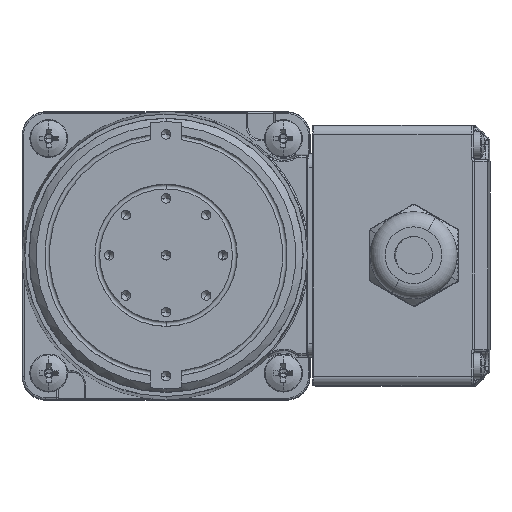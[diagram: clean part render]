
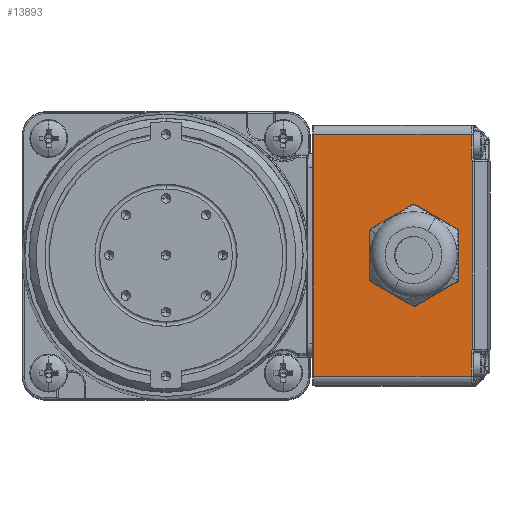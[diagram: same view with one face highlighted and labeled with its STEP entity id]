
A CAD part, top view. The second image highlights one B-rep face of the part: STEP entity #13893.
In plain terms, the highlighted planar face has unit normal (-0.009, 0, 1) as drawn and (0, 1, -0.008) by its records, which use the part's own axes.
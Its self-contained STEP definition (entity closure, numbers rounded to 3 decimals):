
#75 = AXIS2_PLACEMENT_3D ( 'NONE', #18750, #29320, #21343 ) ;
#371 =( BOUNDED_CURVE ( )  B_SPLINE_CURVE ( 3, ( #13868, #32252, #8662, #19248, #8491, #19072, #24472, #677, #11260, #29826, #15788, #30510, #14033, #32760, #32589, #3967, #24982, #9340, #14209, #33265, #20087, #8998, #16814, #24810 ),
 .UNSPECIFIED., .F., .F. ) 
 B_SPLINE_CURVE_WITH_KNOTS ( ( 4, 1, 1, 1, 1, 1, 1, 1, 1, 1, 1, 1, 1, 1, 1, 1, 1, 1, 1, 1, 1, 4 ),
 ( 0., 0., 0.03, 0.059, 0.087, 0.114, 0.143, 0.172, 0.204, 0.238, 0.275, 0.316, 0.36, 0.408, 0.462, 0.521, 0.588, 0.661, 0.743, 0.833, 0.932, 1. ),
 .UNSPECIFIED. ) 
 CURVE ( )  GEOMETRIC_REPRESENTATION_ITEM ( )  RATIONAL_B_SPLINE_CURVE ( ( 1.172, 1.172, 1.172, 1.172, 1.172, 1.172, 1.172, 1.172, 1.172, 1.172, 1.172, 1.172, 1.172, 1.172, 1.172, 1.172, 1.172, 1.172, 1.172, 1.172, 1.172, 1.172, 1.172, 1.172 ) ) 
 REPRESENTATION_ITEM ( '' )  );
#677 = CARTESIAN_POINT ( 'NONE',  ( -19.875, 51.113, 74.305 ) ) ;
#1904 = CIRCLE ( 'NONE', #19643, 8.25 ) ;
#2416 = DIRECTION ( 'NONE',  ( 0., -0.008, -1. ) ) ;
#2624 = EDGE_CURVE ( 'NONE', #25173, #4384, #17524, .T. ) ;
#2724 = ORIENTED_EDGE ( 'NONE', *, *, #7305, .F. ) ;
#2892 = CARTESIAN_POINT ( 'NONE',  ( 25.5, 51.11, 74.029 ) ) ;
#3300 = VECTOR ( 'NONE', #7177, 1000. ) ;
#3472 = EDGE_CURVE ( 'NONE', #13310, #9736, #371, .T. ) ;
#3967 = CARTESIAN_POINT ( 'NONE',  ( -20.141, 51.111, 74.16 ) ) ;
#4088 = CARTESIAN_POINT ( 'NONE',  ( -25.5, 50.837, 40.73 ) ) ;
#4124 = ORIENTED_EDGE ( 'NONE', *, *, #10626, .F. ) ;
#4384 = VERTEX_POINT ( 'NONE', #6826 ) ;
#4528 = VECTOR ( 'NONE', #7383, 1000. ) ;
#4774 = LINE ( 'NONE', #9632, #31229 ) ;
#4958 = DIRECTION ( 'NONE',  ( 0., 1., -0.008 ) ) ;
#6826 = CARTESIAN_POINT ( 'NONE',  ( 25.5, 50.837, 40.73 ) ) ;
#6883 = CARTESIAN_POINT ( 'NONE',  ( 20.319, 51.109, 74.087 ) ) ;
#7177 = DIRECTION ( 'NONE',  ( -1., 0., 0. ) ) ;
#7305 = EDGE_CURVE ( 'NONE', #25500, #8161, #12254, .T. ) ;
#7383 = DIRECTION ( 'NONE',  ( -1., 0., 0. ) ) ;
#7445 = ORIENTED_EDGE ( 'NONE', *, *, #17460, .F. ) ;
#7725 = EDGE_CURVE ( 'NONE', #25173, #12054, #20221, .T. ) ;
#7877 = LINE ( 'NONE', #26257, #3300 ) ;
#8161 = VERTEX_POINT ( 'NONE', #22946 ) ;
#8491 = CARTESIAN_POINT ( 'NONE',  ( -19.838, 51.113, 74.321 ) ) ;
#8656 = ORIENTED_EDGE ( 'NONE', *, *, #3472, .F. ) ;
#8662 = CARTESIAN_POINT ( 'NONE',  ( -19.835, 51.113, 74.321 ) ) ;
#8998 = CARTESIAN_POINT ( 'NONE',  ( -20.614, 51.11, 74.031 ) ) ;
#9340 = CARTESIAN_POINT ( 'NONE',  ( -20.264, 51.111, 74.108 ) ) ;
#9632 = CARTESIAN_POINT ( 'NONE',  ( -25.5, 51.11, 74.029 ) ) ;
#9649 = CARTESIAN_POINT ( 'NONE',  ( 20.107, 51.11, 74.175 ) ) ;
#9736 = VERTEX_POINT ( 'NONE', #11996 ) ;
#9931 = VECTOR ( 'NONE', #2416, 1000. ) ;
#10005 = CARTESIAN_POINT ( 'NONE',  ( 20.177, 51.11, 74.142 ) ) ;
#10626 = EDGE_CURVE ( 'NONE', #12054, #19138, #33923, .T. ) ;
#10688 = VECTOR ( 'NONE', #24062, 1000. ) ;
#11260 = CARTESIAN_POINT ( 'NONE',  ( -19.895, 51.112, 74.294 ) ) ;
#11670 = CARTESIAN_POINT ( 'NONE',  ( -25.5, 51.11, 74.029 ) ) ;
#11996 = CARTESIAN_POINT ( 'NONE',  ( -20.701, 51.11, 74.029 ) ) ;
#12054 = VERTEX_POINT ( 'NONE', #14069 ) ;
#12082 = CARTESIAN_POINT ( 'NONE',  ( 19.971, 51.111, 74.249 ) ) ;
#12254 = CIRCLE ( 'NONE', #75, 8.25 ) ;
#12257 = CARTESIAN_POINT ( 'NONE',  ( 19.905, 51.111, 74.292 ) ) ;
#12775 = CARTESIAN_POINT ( 'NONE',  ( 20.392, 51.109, 74.064 ) ) ;
#13310 = VERTEX_POINT ( 'NONE', #30517 ) ;
#13868 = CARTESIAN_POINT ( 'NONE',  ( -19.835, 51.113, 74.321 ) ) ;
#13893 = ADVANCED_FACE ( 'NONE', ( #23871, #18665 ), #34258, .T. ) ;
#14033 = CARTESIAN_POINT ( 'NONE',  ( -20.008, 51.112, 74.229 ) ) ;
#14069 = CARTESIAN_POINT ( 'NONE',  ( 20.701, 51.11, 74.029 ) ) ;
#14209 = CARTESIAN_POINT ( 'NONE',  ( -20.339, 51.111, 74.083 ) ) ;
#14680 = DIRECTION ( 'NONE',  ( 0., 1., -0.008 ) ) ;
#14699 = EDGE_CURVE ( 'NONE', #24839, #4384, #24776, .T. ) ;
#15788 = CARTESIAN_POINT ( 'NONE',  ( -19.944, 51.112, 74.266 ) ) ;
#16593 = CARTESIAN_POINT ( 'NONE',  ( -20.701, 51.11, 74.029 ) ) ;
#16814 = CARTESIAN_POINT ( 'NONE',  ( -20.676, 51.11, 74.029 ) ) ;
#17460 = EDGE_CURVE ( 'NONE', #19138, #13310, #7877, .T. ) ;
#17524 = LINE ( 'NONE', #33461, #9931 ) ;
#17957 = DIRECTION ( 'NONE',  ( 0., -0.008, -1. ) ) ;
#18665 = FACE_BOUND ( 'NONE', #31148, .T. ) ;
#18750 = CARTESIAN_POINT ( 'NONE',  ( 0., 51.012, 62.029 ) ) ;
#19072 = CARTESIAN_POINT ( 'NONE',  ( -19.847, 51.113, 74.318 ) ) ;
#19138 = VERTEX_POINT ( 'NONE', #33656 ) ;
#19154 = CARTESIAN_POINT ( 'NONE',  ( 0., 50.944, 53.779 ) ) ;
#19248 = CARTESIAN_POINT ( 'NONE',  ( -19.835, 51.113, 74.321 ) ) ;
#19643 = AXIS2_PLACEMENT_3D ( 'NONE', #23007, #14680, #26448 ) ;
#20087 = CARTESIAN_POINT ( 'NONE',  ( -20.521, 51.11, 74.041 ) ) ;
#20221 = LINE ( 'NONE', #31320, #4528 ) ;
#20426 = ORIENTED_EDGE ( 'NONE', *, *, #2624, .T. ) ;
#20633 = EDGE_LOOP ( 'NONE', ( #20426, #31641, #21776, #20698, #8656, #7445, #4124, #33463 ) ) ;
#20698 = ORIENTED_EDGE ( 'NONE', *, *, #25182, .F. ) ;
#21251 = CARTESIAN_POINT ( 'NONE',  ( 27.5, 50.835, 40.53 ) ) ;
#21343 = DIRECTION ( 'NONE',  ( 0., -0.008, -1. ) ) ;
#21776 = ORIENTED_EDGE ( 'NONE', *, *, #27680, .F. ) ;
#22460 = AXIS2_PLACEMENT_3D ( 'NONE', #21251, #4958, #23516 ) ;
#22675 = CARTESIAN_POINT ( 'NONE',  ( 19.835, 51.113, 74.321 ) ) ;
#22946 = CARTESIAN_POINT ( 'NONE',  ( 0., 51.079, 70.279 ) ) ;
#23007 = CARTESIAN_POINT ( 'NONE',  ( 0., 51.012, 62.029 ) ) ;
#23182 = VERTEX_POINT ( 'NONE', #11670 ) ;
#23516 = DIRECTION ( 'NONE',  ( -1., 0., 0. ) ) ;
#23871 = FACE_OUTER_BOUND ( 'NONE', #20633, .T. ) ;
#24062 = DIRECTION ( 'NONE',  ( -1., 0., 0. ) ) ;
#24472 = CARTESIAN_POINT ( 'NONE',  ( -19.859, 51.113, 74.313 ) ) ;
#24776 = LINE ( 'NONE', #4088, #25826 ) ;
#24810 = CARTESIAN_POINT ( 'NONE',  ( -20.701, 51.11, 74.029 ) ) ;
#24839 = VERTEX_POINT ( 'NONE', #29985 ) ;
#24954 = DIRECTION ( 'NONE',  ( 1., 0., 0. ) ) ;
#24982 = CARTESIAN_POINT ( 'NONE',  ( -20.198, 51.111, 74.134 ) ) ;
#25173 = VERTEX_POINT ( 'NONE', #2892 ) ;
#25182 = EDGE_CURVE ( 'NONE', #9736, #23182, #32204, .T. ) ;
#25500 = VERTEX_POINT ( 'NONE', #19154 ) ;
#25826 = VECTOR ( 'NONE', #24954, 1000. ) ;
#25965 = CARTESIAN_POINT ( 'NONE',  ( 20.622, 51.109, 74.032 ) ) ;
#26257 = CARTESIAN_POINT ( 'NONE',  ( 19.835, 51.113, 74.321 ) ) ;
#26448 = DIRECTION ( 'NONE',  ( 0., 0.008, 1. ) ) ;
#27680 = EDGE_CURVE ( 'NONE', #23182, #24839, #4774, .T. ) ;
#29320 = DIRECTION ( 'NONE',  ( 0., 1., -0.008 ) ) ;
#29826 = CARTESIAN_POINT ( 'NONE',  ( -19.918, 51.112, 74.281 ) ) ;
#29985 = CARTESIAN_POINT ( 'NONE',  ( -25.5, 50.837, 40.73 ) ) ;
#30153 = ORIENTED_EDGE ( 'NONE', *, *, #30250, .F. ) ;
#30250 = EDGE_CURVE ( 'NONE', #8161, #25500, #1904, .T. ) ;
#30510 = CARTESIAN_POINT ( 'NONE',  ( -19.974, 51.112, 74.249 ) ) ;
#30517 = CARTESIAN_POINT ( 'NONE',  ( -19.835, 51.113, 74.321 ) ) ;
#31148 = EDGE_LOOP ( 'NONE', ( #30153, #2724 ) ) ;
#31157 = CARTESIAN_POINT ( 'NONE',  ( 20.701, 51.11, 74.029 ) ) ;
#31229 = VECTOR ( 'NONE', #17957, 1000. ) ;
#31320 = CARTESIAN_POINT ( 'NONE',  ( 25.5, 51.11, 74.029 ) ) ;
#31641 = ORIENTED_EDGE ( 'NONE', *, *, #14699, .F. ) ;
#32204 = LINE ( 'NONE', #16593, #10688 ) ;
#32252 = CARTESIAN_POINT ( 'NONE',  ( -19.835, 51.113, 74.321 ) ) ;
#32589 = CARTESIAN_POINT ( 'NONE',  ( -20.091, 51.112, 74.184 ) ) ;
#32760 = CARTESIAN_POINT ( 'NONE',  ( -20.047, 51.112, 74.208 ) ) ;
#33265 = CARTESIAN_POINT ( 'NONE',  ( -20.425, 51.111, 74.06 ) ) ;
#33406 = CARTESIAN_POINT ( 'NONE',  ( 20.543, 51.109, 74.037 ) ) ;
#33461 = CARTESIAN_POINT ( 'NONE',  ( 25.5, 51.11, 74.029 ) ) ;
#33463 = ORIENTED_EDGE ( 'NONE', *, *, #7725, .F. ) ;
#33656 = CARTESIAN_POINT ( 'NONE',  ( 19.835, 51.113, 74.321 ) ) ;
#33923 = B_SPLINE_CURVE_WITH_KNOTS ( 'NONE', 3,
 ( #31157, #25965, #33406, #12775, #6883, #10005, #9649, #12082, #12257, #22675 ),
 .UNSPECIFIED., .F., .F.,
 ( 4, 2, 2, 2, 4 ),
 ( 0., 0.25, 0.5, 0.75, 1. ),
 .UNSPECIFIED. ) ;
#34258 = PLANE ( 'NONE',  #22460 ) ;
